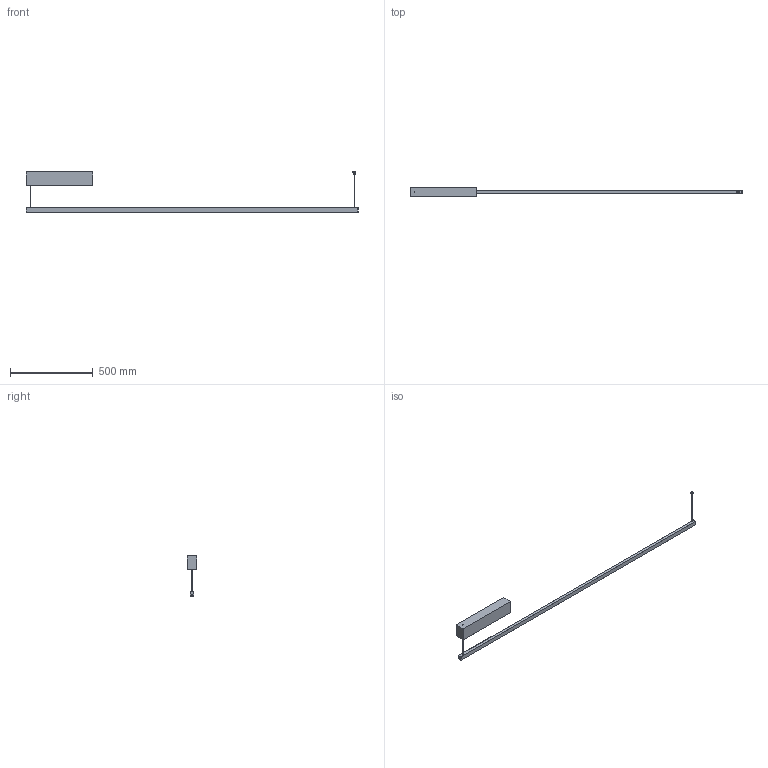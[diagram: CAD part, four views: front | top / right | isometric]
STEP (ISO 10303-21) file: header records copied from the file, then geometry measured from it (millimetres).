
FILE_DESCRIPTION(/* description */ (''),/* implementation_level */ '2;1');
FILE_NAME(/* name */ 'BINARIO 2M - STREAM',/* time_stamp */ '2025-10-30T15:38:58+01:00',/* author */ (''),/* organization */ (''),/* preprocessor_version */ 'ST-DEVELOPER v19.2',/* originating_system */ 'Rhino 8.24',/* authorisation */ '');
FILE_SCHEMA (('CONFIG_CONTROL_DESIGN'));
Length unit declared in the file: millimetre
Products named in the file (1): Document
Bounding box: 2004.4 x 60 x 242.9 mm (x, y, z)
Volume: 2817618.3 mm3; surface area: 334469.1 mm2
Topology: 5 solids, 5 shells, 106 faces, 234 edges, 140 vertices
Faces by surface type: cylinder 48, plane 36, bspline 22
Entity records: 3790 total; most frequent: CARTESIAN_POINT 1752, ORIENTED_EDGE 468, DIRECTION 248, EDGE_CURVE 234, AXIS2_PLACEMENT_3D 166, VERTEX_POINT 140, B_SPLINE_CURVE_WITH_KNOTS 118, EDGE_LOOP 110
